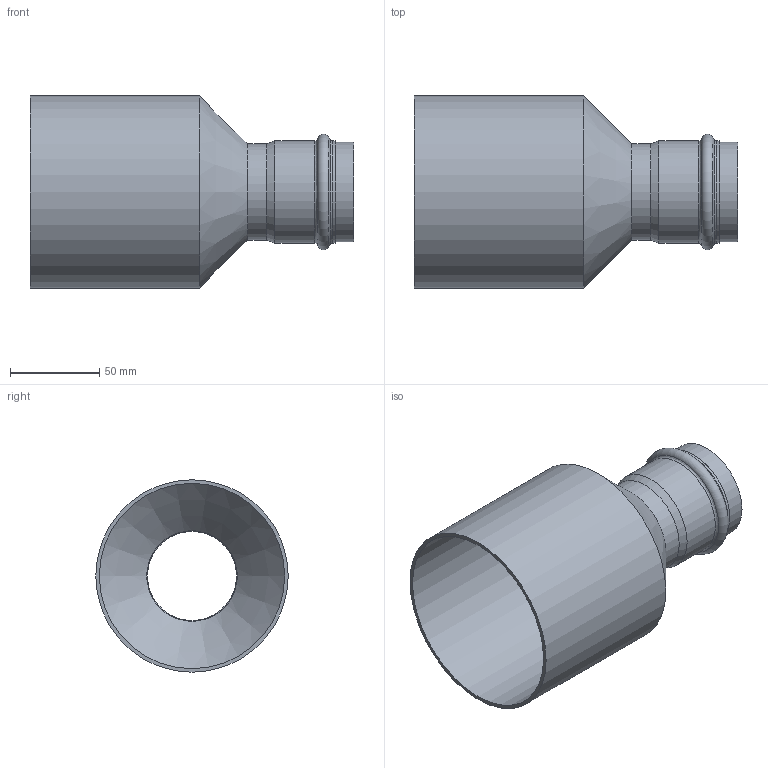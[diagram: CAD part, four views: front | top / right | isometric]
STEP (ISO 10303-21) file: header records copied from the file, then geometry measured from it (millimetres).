
FILE_DESCRIPTION((''),'2;1');
FILE_NAME('G:\Nirosan-Schmiedefeld\Technics\CAD\Bauteile VA\108\6924310854(1).stp','2009-05-08T09:54:15',('herberg'),(''),'Autodesk Inventor 2009','Autodesk Inventor 2009','');
FILE_SCHEMA(('AUTOMOTIVE_DESIGN { 1 0 10303 214 1 1 1 1 }'));
Length unit declared in the file: millimetre
Products named in the file (4): 6924310854(1); ZS_6924310854(0); Kegel_6924310854(1); 6924354HM(1)
Assembly tree (3 placements, depth 2):
  6924310854(1)
    ZS_6924310854(0)
    Kegel_6924310854(1)
    6924354HM(1)
Bounding box: 181.5 x 108 x 108 mm (x, y, z)
Volume: 91320.3 mm3; surface area: 107151.8 mm2
Topology: 3 solids, 3 shells, 28 faces, 50 edges, 28 vertices
Faces by surface type: cylinder 9, cone 7, plane 6, torus 3, bspline 3
Full cylindrical faces by diameter (mm): 51 x1, 54 x1, 54.35 x2, 55.95 x1, 57.35 x2, 104 x1, 108 x1
Entity records: 851 total; most frequent: CARTESIAN_POINT 259, DIRECTION 120, AXIS2_PLACEMENT_3D 60, ORIENTED_EDGE 56, EDGE_LOOP 56, VERTEX_POINT 28, CIRCLE 28, EDGE_CURVE 28
